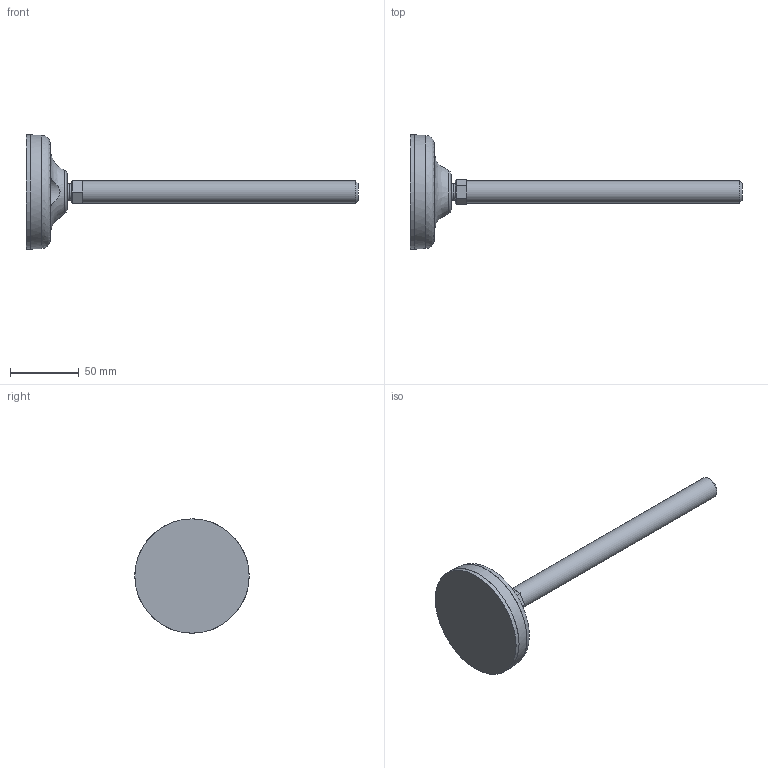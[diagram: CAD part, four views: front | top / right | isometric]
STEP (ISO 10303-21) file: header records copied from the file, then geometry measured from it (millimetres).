
FILE_DESCRIPTION(('STEP AP203'),'2;1');
FILE_NAME('10307.stp','2014-07-10T11:41:54',(''),(''),'2008.1.107','THINKDESIGN','');
FILE_SCHEMA(('CONFIG_CONTROL_DESIGN'));
Length unit declared in the file: millimetre
Bounding box: 241 x 83 x 83 mm (x, y, z)
Volume: 58158 mm3; surface area: 37505.7 mm2
Topology: 3 solids, 3 shells, 36 faces, 87 edges, 61 vertices
Faces by surface type: plane 19, bspline 12, cylinder 5
Full cylindrical faces by diameter (mm): 11.64 x1, 16 x1, 83 x1
Entity records: 1532 total; most frequent: CARTESIAN_POINT 701, DIRECTION 137, ORIENTED_EDGE 86, AXIS2_PLACEMENT_3D 50, COMPOSITE_CURVE_SEGMENT 44, EDGE_CURVE 43, VECTOR 37, LINE 37
